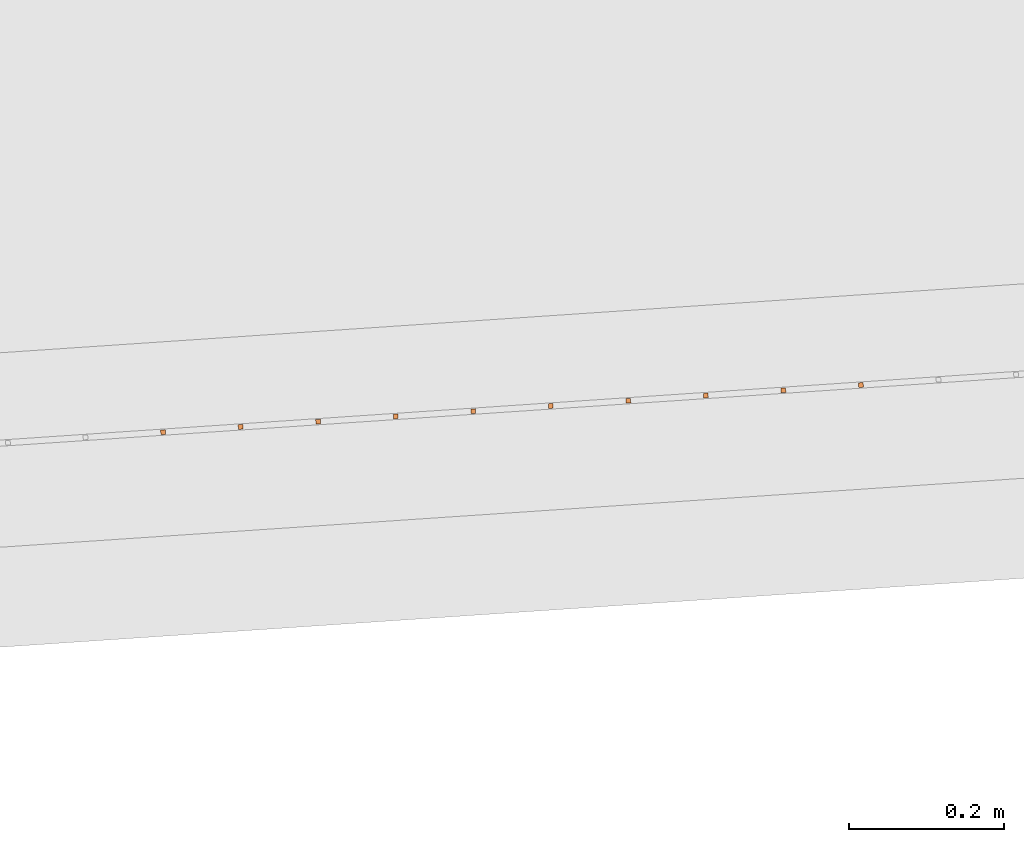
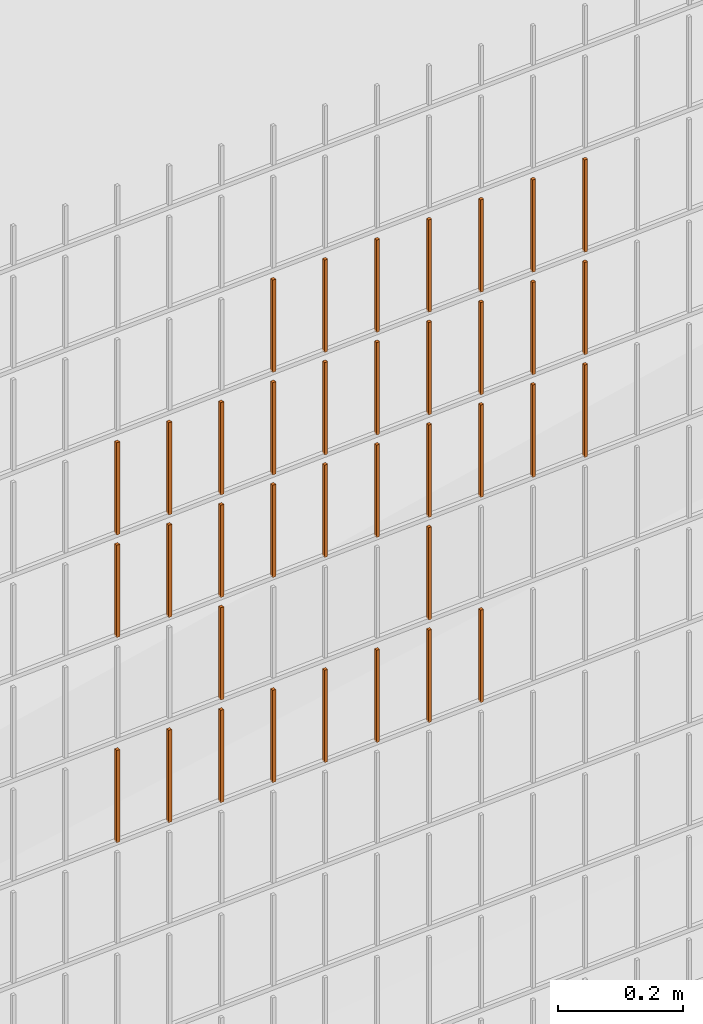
# One storey, part 92 of 1809: 37 proxies, 1 element without a shape of its own.
"""IFC2X3 building model written with IfcOpenShell, lengths in millimetres."""

from ifc_helpers import new_model, entity, si_unit, converted_unit, derived_unit, money_unit, direction, frame, origin_with_axes, place, context, subcontext, project, spatial, faceted_brep, source, transform, mapped, material, type_object, element, aggregate, save


model = new_model("IFC2X3")

# Units and contexts
model_context = context("Model", 3, precision=0.01, world=origin_with_axes(), true_north=direction((0.0, 1.0)))
body_context = subcontext(model_context, "Body", "Model", "MODEL_VIEW")
ifc_project = project(units=[si_unit("LENGTHUNIT", "METRE", prefix="MILLI"), si_unit("AREAUNIT", "SQUARE_METRE"), si_unit("VOLUMEUNIT", "CUBIC_METRE"), converted_unit("PLANEANGLEUNIT", "DEGREE", entity("IfcPlaneAngleMeasure", 0.0174532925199), si_unit("PLANEANGLEUNIT", "RADIAN"), dimensions=[0, 0, 0, 0, 0, 0, 0]), si_unit("SOLIDANGLEUNIT", "STERADIAN"), money_unit("EUR"), converted_unit("TIMEUNIT", "Year", entity("IfcTimeMeasure", 31556926.0), si_unit("TIMEUNIT", "SECOND"), dimensions=[0, 0, 1, 0, 0, 0, 0]), si_unit("MASSUNIT", "GRAM", prefix="KILO"), si_unit("THERMODYNAMICTEMPERATUREUNIT", "DEGREE_CELSIUS"), si_unit("LUMINOUSINTENSITYUNIT", "LUMEN"), si_unit("ENERGYUNIT", "JOULE", prefix="MEGA"), derived_unit("THERMALCONDUCTANCEUNIT", [(si_unit("POWERUNIT", "WATT"), 1), (si_unit("LENGTHUNIT", "METRE"), -1), (si_unit("THERMODYNAMICTEMPERATUREUNIT", "KELVIN"), -1)]), derived_unit("SPECIFICHEATCAPACITYUNIT", [(si_unit("ENERGYUNIT", "JOULE"), 1), (si_unit("MASSUNIT", "GRAM", prefix="KILO"), -1), (si_unit("THERMODYNAMICTEMPERATUREUNIT", "KELVIN"), -1)]), derived_unit("MASSDENSITYUNIT", [(si_unit("MASSUNIT", "GRAM", prefix="KILO"), 1), (si_unit("VOLUMEUNIT", "CUBIC_METRE"), -1)])], contexts=[model_context])

# Site, building, storey
site_placement = place(None, origin_with_axes())
site = spatial("IfcSite", under=ifc_project, at=site_placement, Name="Politse- ja Piirivalveameti ning Päästeameti ühishoone", CompositionType="ELEMENT")
building_placement = place(site_placement, origin_with_axes())
building = spatial("IfcBuilding", under=site, at=building_placement, Name="Politse- ja Piirivalveameti ning Päästeameti ühishoone", CompositionType="ELEMENT")
storey_placement = place(building_placement, origin_with_axes())
storey = spatial("IfcBuildingStorey", under=building, at=storey_placement, Name="Esimene korrus", CompositionType="ELEMENT", Elevation=0.0)

# Proxies
building_element_proxy_type_1 = type_object("IfcBuildingElementProxyType", Name="Railing Type", PredefinedType="NOTDEFINED")
proxy_1_placement = place(storey_placement, frame((89252.001212, -29183.4766571, 203.661247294), z_axis=(0.0, 0.0, 1.0), x_axis=(1.0, 0.0, 0.0)))
proxy_1 = element("IfcBuildingElementProxy", 1, at=proxy_1_placement, inside=storey, type_object=building_element_proxy_type_1, Name="PIIRDEAED")
ifc_material = material(Name="ET-03_Raud")
building_element_proxy_type_2 = type_object("IfcBuildingElementProxyType", Name="IfcBuildingElementProxy", PredefinedType="NOTDEFINED")
shared_shape_1 = source(origin_with_axes(), body_context, "Body", "Brep", [
    faceted_brep([(3.0, 3.0, -0.000752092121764), (-3.0, 3.0, -0.000752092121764), (-3.0, 3.0, 179.99926046), (3.0, 3.0, 179.99926046), (3.0, -3.0, 0.000752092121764), (-3.0, -3.0, 0.000752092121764), (-3.0, -3.0, 180.000764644), (3.0, -3.0, 180.000764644)], [[[0, 1, 2, 3]], [[0, 4, 5, 1]], [[1, 5, 6, 2]], [[3, 2, 6, 7]], [[4, 0, 3, 7]], [[5, 4, 7, 6]]]),
])
proxy_2_placement = place(proxy_1_placement, frame((-98502.2358292, -23951.2290578, 802.4838641), z_axis=(0.0, 0.0, 1.0), x_axis=(1.0, 0.0, 0.0)))
proxy_2 = element("IfcBuildingElementProxy", 2, at=proxy_2_placement, type_object=building_element_proxy_type_2, material=ifc_material, Name="BALUSTER - 001", context=body_context, shape_type="MappedRepresentation", body=[
    mapped(shared_shape_1, transform((0.0, 0.0, 0.0), x_axis=(-0.0673926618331, 0.997726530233, 0.0), y_axis=(-0.997726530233, -0.0673926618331, 0.0), z_axis=(0.0, 0.0, 1.0))),
])
proxy_3_placement = place(proxy_1_placement, frame((-98801.5537883, -23971.4468564, 802.408654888), z_axis=(0.0, 0.0, 1.0), x_axis=(1.0, 0.0, 0.0)))
proxy_3 = element("IfcBuildingElementProxy", 3, at=proxy_3_placement, type_object=building_element_proxy_type_2, material=ifc_material, Name="BALUSTER - 001", context=body_context, shape_type="MappedRepresentation", body=[
    mapped(shared_shape_1, transform((0.0, 0.0, 0.0), x_axis=(-0.0673926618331, 0.997726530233, 0.0), y_axis=(-0.997726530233, -0.0673926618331, 0.0), z_axis=(0.0, 0.0, 1.0))),
])
proxy_4_placement = place(proxy_1_placement, frame((-98202.9178701, -23931.0112593, 1202.55907331), z_axis=(0.0, 0.0, 1.0), x_axis=(1.0, 0.0, 0.0)))
proxy_4 = element("IfcBuildingElementProxy", 4, at=proxy_4_placement, type_object=building_element_proxy_type_2, material=ifc_material, Name="BALUSTER - 001", context=body_context, shape_type="MappedRepresentation", body=[
    mapped(shared_shape_1, transform((0.0, 0.0, 0.0), x_axis=(-0.0673926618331, 0.997726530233, 0.0), y_axis=(-0.997726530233, -0.0673926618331, 0.0), z_axis=(0.0, 0.0, 1.0))),
])
proxy_5_placement = place(proxy_1_placement, frame((-98502.2358292, -23951.2290578, 1202.4838641), z_axis=(0.0, 0.0, 1.0), x_axis=(1.0, 0.0, 0.0)))
proxy_5 = element("IfcBuildingElementProxy", 5, at=proxy_5_placement, type_object=building_element_proxy_type_2, material=ifc_material, Name="BALUSTER - 001", context=body_context, shape_type="MappedRepresentation", body=[
    mapped(shared_shape_1, transform((0.0, 0.0, 0.0), x_axis=(-0.0673926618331, 0.997726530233, 0.0), y_axis=(-0.997726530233, -0.0673926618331, 0.0), z_axis=(0.0, 0.0, 1.0))),
])
shared_shape_2 = source(origin_with_axes(), body_context, "Body", "Brep", [
    faceted_brep([(3.0, 3.0, -0.000752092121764), (-3.0, 3.0, -0.000752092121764), (-3.0, 3.0, 179.99926046), (3.0, 3.0, 179.99926046), (3.0, -3.0, 0.000752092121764), (-3.0, -3.0, 0.000752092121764), (-3.0, -3.0, 180.000764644), (3.0, -3.0, 180.000764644)], [[[0, 1, 2, 3]], [[0, 4, 5, 1]], [[1, 5, 6, 2]], [[3, 2, 6, 7]], [[4, 0, 3, 7]], [[5, 4, 7, 6]]]),
])
proxy_6_placement = place(proxy_1_placement, frame((-98202.9178701, -23931.0112593, 1402.55907331), z_axis=(0.0, 0.0, 1.0), x_axis=(1.0, 0.0, 0.0)))
proxy_6 = element("IfcBuildingElementProxy", 6, at=proxy_6_placement, type_object=building_element_proxy_type_2, material=ifc_material, Name="BALUSTER - 001", context=body_context, shape_type="MappedRepresentation", body=[
    mapped(shared_shape_2, transform((0.0, 0.0, 0.0), x_axis=(-0.0673926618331, 0.997726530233, 0.0), y_axis=(-0.997726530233, -0.0673926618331, 0.0), z_axis=(0.0, 0.0, 1.0))),
])
proxy_7_placement = place(proxy_1_placement, frame((-98502.2358292, -23951.2290578, 1402.4838641), z_axis=(0.0, 0.0, 1.0), x_axis=(1.0, 0.0, 0.0)))
proxy_7 = element("IfcBuildingElementProxy", 7, at=proxy_7_placement, type_object=building_element_proxy_type_2, material=ifc_material, Name="BALUSTER - 001", context=body_context, shape_type="MappedRepresentation", body=[
    mapped(shared_shape_2, transform((0.0, 0.0, 0.0), x_axis=(-0.0673926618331, 0.997726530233, 0.0), y_axis=(-0.997726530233, -0.0673926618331, 0.0), z_axis=(0.0, 0.0, 1.0))),
])
proxy_8_placement = place(proxy_1_placement, frame((-98202.9178701, -23931.0112593, 1602.55907331), z_axis=(0.0, 0.0, 1.0), x_axis=(1.0, 0.0, 0.0)))
proxy_8 = element("IfcBuildingElementProxy", 8, at=proxy_8_placement, type_object=building_element_proxy_type_2, material=ifc_material, Name="BALUSTER - 001", context=body_context, shape_type="MappedRepresentation", body=[
    mapped(shared_shape_2, transform((0.0, 0.0, 0.0), x_axis=(-0.0673926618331, 0.997726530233, 0.0), y_axis=(-0.997726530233, -0.0673926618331, 0.0), z_axis=(0.0, 0.0, 1.0))),
])
proxy_9_placement = place(proxy_1_placement, frame((-98502.2358292, -23951.2290578, 1602.4838641), z_axis=(0.0, 0.0, 1.0), x_axis=(1.0, 0.0, 0.0)))
proxy_9 = element("IfcBuildingElementProxy", 9, at=proxy_9_placement, type_object=building_element_proxy_type_2, material=ifc_material, Name="BALUSTER - 001", context=body_context, shape_type="MappedRepresentation", body=[
    mapped(shared_shape_2, transform((0.0, 0.0, 0.0), x_axis=(-0.0673926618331, 0.997726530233, 0.0), y_axis=(-0.997726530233, -0.0673926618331, 0.0), z_axis=(0.0, 0.0, 1.0))),
])
shared_shape_3 = source(origin_with_axes(), body_context, "Body", "Brep", [
    faceted_brep([(3.0, 3.0, -0.000752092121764), (-3.0, 3.0, -0.000752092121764), (-3.0, 3.0, 179.99926046), (3.0, 3.0, 179.99926046), (3.0, -3.0, 0.000752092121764), (-3.0, -3.0, 0.000752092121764), (-3.0, -3.0, 180.000764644), (3.0, -3.0, 180.000764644)], [[[0, 1, 2, 3]], [[0, 4, 5, 1]], [[1, 5, 6, 2]], [[3, 2, 6, 7]], [[4, 0, 3, 7]], [[5, 4, 7, 6]]]),
])
proxy_10_placement = place(proxy_1_placement, frame((-99001.0990943, -23984.9253888, 1202.35851541), z_axis=(0.0, 0.0, 1.0), x_axis=(1.0, 0.0, 0.0)))
proxy_10 = element("IfcBuildingElementProxy", 10, at=proxy_10_placement, type_object=building_element_proxy_type_2, material=ifc_material, Name="BALUSTER - 001", context=body_context, shape_type="MappedRepresentation", body=[
    mapped(shared_shape_3, transform((0.0, 0.0, 0.0), x_axis=(-0.0673926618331, 0.997726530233, 0.0), y_axis=(-0.997726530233, -0.0673926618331, 0.0), z_axis=(0.0, 0.0, 1.0))),
])
shared_shape_4 = source(origin_with_axes(), body_context, "Body", "Brep", [
    faceted_brep([(3.0, 3.0, -0.000752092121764), (-3.0, 3.0, -0.000752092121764), (-3.0, 3.0, 179.99926046), (3.0, 3.0, 179.99926046), (3.0, -3.0, 0.000752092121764), (-3.0, -3.0, 0.000752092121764), (-3.0, -3.0, 180.000764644), (3.0, -3.0, 180.000764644)], [[[0, 1, 2, 3]], [[0, 4, 5, 1]], [[1, 5, 6, 2]], [[3, 2, 6, 7]], [[4, 0, 3, 7]], [[5, 4, 7, 6]]]),
])
proxy_11_placement = place(proxy_1_placement, frame((-99001.0990943, -23984.9253888, 802.358515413), z_axis=(0.0, 0.0, 1.0), x_axis=(1.0, 0.0, 0.0)))
proxy_11 = element("IfcBuildingElementProxy", 11, at=proxy_11_placement, type_object=building_element_proxy_type_2, material=ifc_material, Name="BALUSTER - 001", context=body_context, shape_type="MappedRepresentation", body=[
    mapped(shared_shape_4, transform((0.0, 0.0, 0.0), x_axis=(-0.0673926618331, 0.997726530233, 0.0), y_axis=(-0.997726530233, -0.0673926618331, 0.0), z_axis=(0.0, 0.0, 1.0))),
])
proxy_12_placement = place(proxy_1_placement, frame((-99100.8717473, -23991.6646549, 1202.33344568), z_axis=(0.0, 0.0, 1.0), x_axis=(1.0, 0.0, 0.0)))
proxy_12 = element("IfcBuildingElementProxy", 12, at=proxy_12_placement, type_object=building_element_proxy_type_2, material=ifc_material, Name="BALUSTER - 001", context=body_context, shape_type="MappedRepresentation", body=[
    mapped(shared_shape_4, transform((0.0, 0.0, 0.0), x_axis=(-0.0673926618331, 0.997726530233, 0.0), y_axis=(-0.997726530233, -0.0673926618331, 0.0), z_axis=(0.0, 0.0, 1.0))),
])
shared_shape_5 = source(origin_with_axes(), body_context, "Body", "Brep", [
    faceted_brep([(3.0, 3.0, -0.000752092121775), (-3.0, 3.0, -0.000752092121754), (-3.0, 3.0, 179.99926046), (3.0, 3.0, 179.99926046), (3.0, -3.0, 0.000752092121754), (-3.0, -3.0, 0.000752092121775), (-3.0, -3.0, 180.000764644), (3.0, -3.0, 180.000764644)], [[[0, 1, 2, 3]], [[0, 4, 5, 1]], [[1, 5, 6, 2]], [[3, 2, 6, 7]], [[4, 0, 3, 7]], [[5, 4, 7, 6]]]),
])
proxy_13_placement = place(proxy_1_placement, frame((-98602.0084822, -23957.968324, 802.458794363), z_axis=(0.0, 0.0, 1.0), x_axis=(1.0, 0.0, 0.0)))
proxy_13 = element("IfcBuildingElementProxy", 13, at=proxy_13_placement, type_object=building_element_proxy_type_2, material=ifc_material, Name="BALUSTER - 001", context=body_context, shape_type="MappedRepresentation", body=[
    mapped(shared_shape_5, transform((0.0, 0.0, 0.0), x_axis=(-0.0673926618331, 0.997726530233, 0.0), y_axis=(-0.997726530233, -0.0673926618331, 0.0), z_axis=(0.0, 0.0, 1.0))),
])
shared_shape_6 = source(origin_with_axes(), body_context, "Body", "Brep", [
    faceted_brep([(3.0, 3.0, -0.000752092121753), (-3.0, 3.0, -0.000752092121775), (-3.0, 3.0, 179.99926046), (3.0, 3.0, 179.99926046), (3.0, -3.0, 0.000752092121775), (-3.0, -3.0, 0.000752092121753), (-3.0, -3.0, 180.000764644), (3.0, -3.0, 180.000764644)], [[[0, 1, 2, 3]], [[0, 4, 5, 1]], [[1, 5, 6, 2]], [[3, 2, 6, 7]], [[4, 0, 3, 7]], [[5, 4, 7, 6]]]),
])
proxy_14_placement = place(proxy_1_placement, frame((-98801.5537883, -23971.4468564, 1202.40865489), z_axis=(0.0, 0.0, 1.0), x_axis=(1.0, 0.0, 0.0)))
proxy_14 = element("IfcBuildingElementProxy", 14, at=proxy_14_placement, type_object=building_element_proxy_type_2, material=ifc_material, Name="BALUSTER - 001", context=body_context, shape_type="MappedRepresentation", body=[
    mapped(shared_shape_6, transform((0.0, 0.0, 0.0), x_axis=(-0.0673926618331, 0.997726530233, 0.0), y_axis=(-0.997726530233, -0.0673926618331, 0.0), z_axis=(0.0, 0.0, 1.0))),
])
shared_shape_7 = source(origin_with_axes(), body_context, "Body", "Brep", [
    faceted_brep([(3.0, 3.0, -0.000752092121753), (-3.0, 3.0, -0.000752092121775), (-3.0, 3.0, 179.99926046), (3.0, 3.0, 179.99926046), (3.0, -3.0, 0.000752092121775), (-3.0, -3.0, 0.000752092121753), (-3.0, -3.0, 180.000764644), (3.0, -3.0, 180.000764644)], [[[0, 1, 2, 3]], [[0, 4, 5, 1]], [[1, 5, 6, 2]], [[3, 2, 6, 7]], [[4, 0, 3, 7]], [[5, 4, 7, 6]]]),
])
proxy_15_placement = place(proxy_1_placement, frame((-99100.8717473, -23991.6646549, 802.333445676), z_axis=(0.0, 0.0, 1.0), x_axis=(1.0, 0.0, 0.0)))
proxy_15 = element("IfcBuildingElementProxy", 15, at=proxy_15_placement, type_object=building_element_proxy_type_2, material=ifc_material, Name="BALUSTER - 001", context=body_context, shape_type="MappedRepresentation", body=[
    mapped(shared_shape_7, transform((0.0, 0.0, 0.0), x_axis=(-0.0673926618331, 0.997726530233, 0.0), y_axis=(-0.997726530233, -0.0673926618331, 0.0), z_axis=(0.0, 0.0, 1.0))),
])
proxy_16_placement = place(proxy_1_placement, frame((-98701.7811352, -23964.7075902, 1202.43372463), z_axis=(0.0, 0.0, 1.0), x_axis=(1.0, 0.0, 0.0)))
proxy_16 = element("IfcBuildingElementProxy", 16, at=proxy_16_placement, type_object=building_element_proxy_type_2, material=ifc_material, Name="BALUSTER - 001", context=body_context, shape_type="MappedRepresentation", body=[
    mapped(shared_shape_7, transform((0.0, 0.0, 0.0), x_axis=(-0.0673926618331, 0.997726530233, 0.0), y_axis=(-0.997726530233, -0.0673926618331, 0.0), z_axis=(0.0, 0.0, 1.0))),
])
shared_shape_8 = source(origin_with_axes(), body_context, "Body", "Brep", [
    faceted_brep([(3.0, 3.0, -0.000752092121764), (-3.0, 3.0, -0.000752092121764), (-3.0, 3.0, 179.99926046), (3.0, 3.0, 179.99926046), (3.0, -3.0, 0.000752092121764), (-3.0, -3.0, 0.000752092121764), (-3.0, -3.0, 180.000764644), (3.0, -3.0, 180.000764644)], [[[0, 1, 2, 3]], [[0, 4, 5, 1]], [[1, 5, 6, 2]], [[3, 2, 6, 7]], [[4, 0, 3, 7]], [[5, 4, 7, 6]]]),
])
proxy_17_placement = place(proxy_1_placement, frame((-99100.8717473, -23991.6646549, 1402.33344568), z_axis=(0.0, 0.0, 1.0), x_axis=(1.0, 0.0, 0.0)))
proxy_17 = element("IfcBuildingElementProxy", 17, at=proxy_17_placement, type_object=building_element_proxy_type_2, material=ifc_material, Name="BALUSTER - 001", context=body_context, shape_type="MappedRepresentation", body=[
    mapped(shared_shape_8, transform((0.0, 0.0, 0.0), x_axis=(-0.0673926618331, 0.997726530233, 0.0), y_axis=(-0.997726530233, -0.0673926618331, 0.0), z_axis=(0.0, 0.0, 1.0))),
])
shared_shape_9 = source(origin_with_axes(), body_context, "Body", "Brep", [
    faceted_brep([(3.0, 3.0, -0.000752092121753), (-3.0, 3.0, -0.000752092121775), (-3.0, 3.0, 179.99926046), (3.0, 3.0, 179.99926046), (3.0, -3.0, 0.000752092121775), (-3.0, -3.0, 0.000752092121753), (-3.0, -3.0, 180.000764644), (3.0, -3.0, 180.000764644)], [[[0, 1, 2, 3]], [[0, 4, 5, 1]], [[1, 5, 6, 2]], [[3, 2, 6, 7]], [[4, 0, 3, 7]], [[5, 4, 7, 6]]]),
])
proxy_18_placement = place(proxy_1_placement, frame((-98801.5537883, -23971.4468564, 1402.40865489), z_axis=(0.0, 0.0, 1.0), x_axis=(1.0, 0.0, 0.0)))
proxy_18 = element("IfcBuildingElementProxy", 18, at=proxy_18_placement, type_object=building_element_proxy_type_2, material=ifc_material, Name="BALUSTER - 001", context=body_context, shape_type="MappedRepresentation", body=[
    mapped(shared_shape_9, transform((0.0, 0.0, 0.0), x_axis=(-0.0673926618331, 0.997726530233, 0.0), y_axis=(-0.997726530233, -0.0673926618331, 0.0), z_axis=(0.0, 0.0, 1.0))),
])
proxy_19_placement = place(proxy_1_placement, frame((-98801.5537883, -23971.4468564, 1602.40865489), z_axis=(0.0, 0.0, 1.0), x_axis=(1.0, 0.0, 0.0)))
proxy_19 = element("IfcBuildingElementProxy", 19, at=proxy_19_placement, type_object=building_element_proxy_type_2, material=ifc_material, Name="BALUSTER - 001", context=body_context, shape_type="MappedRepresentation", body=[
    mapped(shared_shape_9, transform((0.0, 0.0, 0.0), x_axis=(-0.0673926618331, 0.997726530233, 0.0), y_axis=(-0.997726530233, -0.0673926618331, 0.0), z_axis=(0.0, 0.0, 1.0))),
])
shared_shape_10 = source(origin_with_axes(), body_context, "Body", "Brep", [
    faceted_brep([(3.0, 3.0, -0.000752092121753), (-3.0, 3.0, -0.000752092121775), (-3.0, 3.0, 179.99926046), (3.0, 3.0, 179.99926046), (3.0, -3.0, 0.000752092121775), (-3.0, -3.0, 0.000752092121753), (-3.0, -3.0, 180.000764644), (3.0, -3.0, 180.000764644)], [[[0, 1, 2, 3]], [[0, 4, 5, 1]], [[1, 5, 6, 2]], [[3, 2, 6, 7]], [[4, 0, 3, 7]], [[5, 4, 7, 6]]]),
])
proxy_20_placement = place(proxy_1_placement, frame((-98701.7811352, -23964.7075902, 1402.43372463), z_axis=(0.0, 0.0, 1.0), x_axis=(1.0, 0.0, 0.0)))
proxy_20 = element("IfcBuildingElementProxy", 20, at=proxy_20_placement, type_object=building_element_proxy_type_2, material=ifc_material, Name="BALUSTER - 001", context=body_context, shape_type="MappedRepresentation", body=[
    mapped(shared_shape_10, transform((0.0, 0.0, 0.0), x_axis=(-0.0673926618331, 0.997726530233, 0.0), y_axis=(-0.997726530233, -0.0673926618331, 0.0), z_axis=(0.0, 0.0, 1.0))),
])
proxy_21_placement = place(proxy_1_placement, frame((-98701.7811352, -23964.7075902, 1602.43372463), z_axis=(0.0, 0.0, 1.0), x_axis=(1.0, 0.0, 0.0)))
proxy_21 = element("IfcBuildingElementProxy", 21, at=proxy_21_placement, type_object=building_element_proxy_type_2, material=ifc_material, Name="BALUSTER - 001", context=body_context, shape_type="MappedRepresentation", body=[
    mapped(shared_shape_10, transform((0.0, 0.0, 0.0), x_axis=(-0.0673926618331, 0.997726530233, 0.0), y_axis=(-0.997726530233, -0.0673926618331, 0.0), z_axis=(0.0, 0.0, 1.0))),
])
shared_shape_11 = source(origin_with_axes(), body_context, "Body", "Brep", [
    faceted_brep([(3.0, 3.0, -0.000752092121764), (-3.0, 3.0, -0.000752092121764), (-3.0, 3.0, 179.99926046), (3.0, 3.0, 179.99926046), (3.0, -3.0, 0.000752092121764), (-3.0, -3.0, 0.000752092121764), (-3.0, -3.0, 180.000764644), (3.0, -3.0, 180.000764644)], [[[0, 1, 2, 3]], [[0, 4, 5, 1]], [[1, 5, 6, 2]], [[3, 2, 6, 7]], [[4, 0, 3, 7]], [[5, 4, 7, 6]]]),
])
proxy_22_placement = place(proxy_1_placement, frame((-98402.4631762, -23944.4897917, 1202.50893384), z_axis=(0.0, 0.0, 1.0), x_axis=(1.0, 0.0, 0.0)))
proxy_22 = element("IfcBuildingElementProxy", 22, at=proxy_22_placement, type_object=building_element_proxy_type_2, material=ifc_material, Name="BALUSTER - 001", context=body_context, shape_type="MappedRepresentation", body=[
    mapped(shared_shape_11, transform((0.0, 0.0, 0.0), x_axis=(-0.0673926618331, 0.997726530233, 0.0), y_axis=(-0.997726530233, -0.0673926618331, 0.0), z_axis=(0.0, 0.0, 1.0))),
])
shared_shape_12 = source(origin_with_axes(), body_context, "Body", "Brep", [
    faceted_brep([(3.0, 3.0, -0.000752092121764), (-3.0, 3.0, -0.000752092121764), (-3.0, 3.0, 179.99926046), (3.0, 3.0, 179.99926046), (3.0, -3.0, 0.000752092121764), (-3.0, -3.0, 0.000752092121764), (-3.0, -3.0, 180.000764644), (3.0, -3.0, 180.000764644)], [[[0, 1, 2, 3]], [[0, 4, 5, 1]], [[1, 5, 6, 2]], [[3, 2, 6, 7]], [[4, 0, 3, 7]], [[5, 4, 7, 6]]]),
])
proxy_23_placement = place(proxy_1_placement, frame((-98901.3264413, -23978.1861226, 802.383585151), z_axis=(0.0, 0.0, 1.0), x_axis=(1.0, 0.0, 0.0)))
proxy_23 = element("IfcBuildingElementProxy", 23, at=proxy_23_placement, type_object=building_element_proxy_type_2, material=ifc_material, Name="BALUSTER - 001", context=body_context, shape_type="MappedRepresentation", body=[
    mapped(shared_shape_12, transform((0.0, 0.0, 0.0), x_axis=(-0.0673926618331, 0.997726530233, 0.0), y_axis=(-0.997726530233, -0.0673926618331, 0.0), z_axis=(0.0, 0.0, 1.0))),
])
proxy_24_placement = place(proxy_1_placement, frame((-98901.3264413, -23978.1861226, 1202.38358515), z_axis=(0.0, 0.0, 1.0), x_axis=(1.0, 0.0, 0.0)))
proxy_24 = element("IfcBuildingElementProxy", 24, at=proxy_24_placement, type_object=building_element_proxy_type_2, material=ifc_material, Name="BALUSTER - 001", context=body_context, shape_type="MappedRepresentation", body=[
    mapped(shared_shape_12, transform((0.0, 0.0, 0.0), x_axis=(-0.0673926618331, 0.997726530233, 0.0), y_axis=(-0.997726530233, -0.0673926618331, 0.0), z_axis=(0.0, 0.0, 1.0))),
])
shared_shape_13 = source(origin_with_axes(), body_context, "Body", "Brep", [
    faceted_brep([(3.0, 3.0, -0.000752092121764), (-3.0, 3.0, -0.000752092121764), (-3.0, 3.0, 179.99926046), (3.0, 3.0, 179.99926046), (3.0, -3.0, 0.000752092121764), (-3.0, -3.0, 0.000752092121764), (-3.0, -3.0, 180.000764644), (3.0, -3.0, 180.000764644)], [[[0, 1, 2, 3]], [[0, 4, 5, 1]], [[1, 5, 6, 2]], [[3, 2, 6, 7]], [[4, 0, 3, 7]], [[5, 4, 7, 6]]]),
])
proxy_25_placement = place(proxy_1_placement, frame((-98901.3264413, -23978.1861226, 1402.38358515), z_axis=(0.0, 0.0, 1.0), x_axis=(1.0, 0.0, 0.0)))
proxy_25 = element("IfcBuildingElementProxy", 25, at=proxy_25_placement, type_object=building_element_proxy_type_2, material=ifc_material, Name="BALUSTER - 001", context=body_context, shape_type="MappedRepresentation", body=[
    mapped(shared_shape_13, transform((0.0, 0.0, 0.0), x_axis=(-0.0673926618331, 0.997726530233, 0.0), y_axis=(-0.997726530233, -0.0673926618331, 0.0), z_axis=(0.0, 0.0, 1.0))),
])
shared_shape_14 = source(origin_with_axes(), body_context, "Body", "Brep", [
    faceted_brep([(3.0, 3.0, -0.000752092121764), (-3.0, 3.0, -0.000752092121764), (-3.0, 3.0, 179.99926046), (3.0, 3.0, 179.99926046), (3.0, -3.0, 0.000752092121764), (-3.0, -3.0, 0.000752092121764), (-3.0, -3.0, 180.000764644), (3.0, -3.0, 180.000764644)], [[[0, 1, 2, 3]], [[0, 4, 5, 1]], [[1, 5, 6, 2]], [[3, 2, 6, 7]], [[4, 0, 3, 7]], [[5, 4, 7, 6]]]),
])
proxy_26_placement = place(proxy_1_placement, frame((-99001.0990943, -23984.9253888, 1402.35851541), z_axis=(0.0, 0.0, 1.0), x_axis=(1.0, 0.0, 0.0)))
proxy_26 = element("IfcBuildingElementProxy", 26, at=proxy_26_placement, type_object=building_element_proxy_type_2, material=ifc_material, Name="BALUSTER - 001", context=body_context, shape_type="MappedRepresentation", body=[
    mapped(shared_shape_14, transform((0.0, 0.0, 0.0), x_axis=(-0.0673926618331, 0.997726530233, 0.0), y_axis=(-0.997726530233, -0.0673926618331, 0.0), z_axis=(0.0, 0.0, 1.0))),
])
shared_shape_15 = source(origin_with_axes(), body_context, "Body", "Brep", [
    faceted_brep([(3.0, 3.0, -0.000752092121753), (-3.0, 3.0, -0.000752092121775), (-3.0, 3.0, 179.99926046), (3.0, 3.0, 179.99926046), (3.0, -3.0, 0.000752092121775), (-3.0, -3.0, 0.000752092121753), (-3.0, -3.0, 180.000764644), (3.0, -3.0, 180.000764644)], [[[0, 1, 2, 3]], [[0, 4, 5, 1]], [[1, 5, 6, 2]], [[3, 2, 6, 7]], [[4, 0, 3, 7]], [[5, 4, 7, 6]]]),
])
proxy_27_placement = place(proxy_1_placement, frame((-98602.0084822, -23957.968324, 1202.45879436), z_axis=(0.0, 0.0, 1.0), x_axis=(1.0, 0.0, 0.0)))
proxy_27 = element("IfcBuildingElementProxy", 27, at=proxy_27_placement, type_object=building_element_proxy_type_2, material=ifc_material, Name="BALUSTER - 001", context=body_context, shape_type="MappedRepresentation", body=[
    mapped(shared_shape_15, transform((0.0, 0.0, 0.0), x_axis=(-0.0673926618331, 0.997726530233, 0.0), y_axis=(-0.997726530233, -0.0673926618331, 0.0), z_axis=(0.0, 0.0, 1.0))),
])
shared_shape_16 = source(origin_with_axes(), body_context, "Body", "Brep", [
    faceted_brep([(3.0, 3.0, -0.000752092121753), (-3.0, 3.0, -0.000752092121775), (-3.0, 3.0, 179.99926046), (3.0, 3.0, 179.99926046), (3.0, -3.0, 0.000752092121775), (-3.0, -3.0, 0.000752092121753), (-3.0, -3.0, 180.000764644), (3.0, -3.0, 180.000764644)], [[[0, 1, 2, 3]], [[0, 4, 5, 1]], [[1, 5, 6, 2]], [[3, 2, 6, 7]], [[4, 0, 3, 7]], [[5, 4, 7, 6]]]),
])
proxy_28_placement = place(proxy_1_placement, frame((-98602.0084822, -23957.968324, 1402.45879436), z_axis=(0.0, 0.0, 1.0), x_axis=(1.0, 0.0, 0.0)))
proxy_28 = element("IfcBuildingElementProxy", 28, at=proxy_28_placement, type_object=building_element_proxy_type_2, material=ifc_material, Name="BALUSTER - 001", context=body_context, shape_type="MappedRepresentation", body=[
    mapped(shared_shape_16, transform((0.0, 0.0, 0.0), x_axis=(-0.0673926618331, 0.997726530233, 0.0), y_axis=(-0.997726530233, -0.0673926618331, 0.0), z_axis=(0.0, 0.0, 1.0))),
])
proxy_29_placement = place(proxy_1_placement, frame((-98602.0084822, -23957.968324, 1602.45879436), z_axis=(0.0, 0.0, 1.0), x_axis=(1.0, 0.0, 0.0)))
proxy_29 = element("IfcBuildingElementProxy", 29, at=proxy_29_placement, type_object=building_element_proxy_type_2, material=ifc_material, Name="BALUSTER - 001", context=body_context, shape_type="MappedRepresentation", body=[
    mapped(shared_shape_16, transform((0.0, 0.0, 0.0), x_axis=(-0.0673926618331, 0.997726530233, 0.0), y_axis=(-0.997726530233, -0.0673926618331, 0.0), z_axis=(0.0, 0.0, 1.0))),
])
shared_shape_17 = source(origin_with_axes(), body_context, "Body", "Brep", [
    faceted_brep([(3.0, 3.0, -0.000752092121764), (-3.0, 3.0, -0.000752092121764), (-3.0, 3.0, 179.99926046), (3.0, 3.0, 179.99926046), (3.0, -3.0, 0.000752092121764), (-3.0, -3.0, 0.000752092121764), (-3.0, -3.0, 180.000764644), (3.0, -3.0, 180.000764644)], [[[0, 1, 2, 3]], [[0, 4, 5, 1]], [[1, 5, 6, 2]], [[3, 2, 6, 7]], [[4, 0, 3, 7]], [[5, 4, 7, 6]]]),
])
proxy_30_placement = place(proxy_1_placement, frame((-98402.4631762, -23944.4897917, 1402.50893384), z_axis=(0.0, 0.0, 1.0), x_axis=(1.0, 0.0, 0.0)))
proxy_30 = element("IfcBuildingElementProxy", 30, at=proxy_30_placement, type_object=building_element_proxy_type_2, material=ifc_material, Name="BALUSTER - 001", context=body_context, shape_type="MappedRepresentation", body=[
    mapped(shared_shape_17, transform((0.0, 0.0, 0.0), x_axis=(-0.0673926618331, 0.997726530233, 0.0), y_axis=(-0.997726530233, -0.0673926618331, 0.0), z_axis=(0.0, 0.0, 1.0))),
])
proxy_31_placement = place(proxy_1_placement, frame((-98402.4631762, -23944.4897917, 1602.50893384), z_axis=(0.0, 0.0, 1.0), x_axis=(1.0, 0.0, 0.0)))
proxy_31 = element("IfcBuildingElementProxy", 31, at=proxy_31_placement, type_object=building_element_proxy_type_2, material=ifc_material, Name="BALUSTER - 001", context=body_context, shape_type="MappedRepresentation", body=[
    mapped(shared_shape_17, transform((0.0, 0.0, 0.0), x_axis=(-0.0673926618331, 0.997726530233, 0.0), y_axis=(-0.997726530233, -0.0673926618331, 0.0), z_axis=(0.0, 0.0, 1.0))),
])
shared_shape_18 = source(origin_with_axes(), body_context, "Body", "Brep", [
    faceted_brep([(3.0, 3.0, -0.000752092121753), (-3.0, 3.0, -0.000752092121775), (-3.0, 3.0, 179.99926046), (3.0, 3.0, 179.99926046), (3.0, -3.0, 0.000752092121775), (-3.0, -3.0, 0.000752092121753), (-3.0, -3.0, 180.000764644), (3.0, -3.0, 180.000764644)], [[[0, 1, 2, 3]], [[0, 4, 5, 1]], [[1, 5, 6, 2]], [[3, 2, 6, 7]], [[4, 0, 3, 7]], [[5, 4, 7, 6]]]),
])
proxy_32_placement = place(proxy_1_placement, frame((-98302.6905231, -23937.7505255, 1202.53400358), z_axis=(0.0, 0.0, 1.0), x_axis=(1.0, 0.0, 0.0)))
proxy_32 = element("IfcBuildingElementProxy", 32, at=proxy_32_placement, type_object=building_element_proxy_type_2, material=ifc_material, Name="BALUSTER - 001", context=body_context, shape_type="MappedRepresentation", body=[
    mapped(shared_shape_18, transform((0.0, 0.0, 0.0), x_axis=(-0.0673926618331, 0.997726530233, 0.0), y_axis=(-0.997726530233, -0.0673926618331, 0.0), z_axis=(0.0, 0.0, 1.0))),
])
shared_shape_19 = source(origin_with_axes(), body_context, "Body", "Brep", [
    faceted_brep([(3.0, 3.0, -0.000752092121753), (-3.0, 3.0, -0.000752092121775), (-3.0, 3.0, 179.99926046), (3.0, 3.0, 179.99926046), (3.0, -3.0, 0.000752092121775), (-3.0, -3.0, 0.000752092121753), (-3.0, -3.0, 180.000764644), (3.0, -3.0, 180.000764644)], [[[0, 1, 2, 3]], [[0, 4, 5, 1]], [[1, 5, 6, 2]], [[3, 2, 6, 7]], [[4, 0, 3, 7]], [[5, 4, 7, 6]]]),
])
proxy_33_placement = place(proxy_1_placement, frame((-98302.6905231, -23937.7505255, 1402.53400358), z_axis=(0.0, 0.0, 1.0), x_axis=(1.0, 0.0, 0.0)))
proxy_33 = element("IfcBuildingElementProxy", 33, at=proxy_33_placement, type_object=building_element_proxy_type_2, material=ifc_material, Name="BALUSTER - 001", context=body_context, shape_type="MappedRepresentation", body=[
    mapped(shared_shape_19, transform((0.0, 0.0, 0.0), x_axis=(-0.0673926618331, 0.997726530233, 0.0), y_axis=(-0.997726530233, -0.0673926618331, 0.0), z_axis=(0.0, 0.0, 1.0))),
])
proxy_34_placement = place(proxy_1_placement, frame((-98302.6905231, -23937.7505255, 1602.53400358), z_axis=(0.0, 0.0, 1.0), x_axis=(1.0, 0.0, 0.0)))
proxy_34 = element("IfcBuildingElementProxy", 34, at=proxy_34_placement, type_object=building_element_proxy_type_2, material=ifc_material, Name="BALUSTER - 001", context=body_context, shape_type="MappedRepresentation", body=[
    mapped(shared_shape_19, transform((0.0, 0.0, 0.0), x_axis=(-0.0673926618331, 0.997726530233, 0.0), y_axis=(-0.997726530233, -0.0673926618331, 0.0), z_axis=(0.0, 0.0, 1.0))),
])
shared_shape_20 = source(origin_with_axes(), body_context, "Body", "Brep", [
    faceted_brep([(3.0, 3.0, -0.000752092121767), (-3.0, 3.0, -0.000752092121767), (-3.0, 3.0, 179.99926046), (3.0, 3.0, 179.99926046), (3.0, -3.0, 0.000752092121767), (-3.0, -3.0, 0.000752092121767), (-3.0, -3.0, 180.000764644), (3.0, -3.0, 180.000764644)], [[[0, 1, 2, 3]], [[0, 4, 5, 1]], [[1, 5, 6, 2]], [[3, 2, 6, 7]], [[4, 0, 3, 7]], [[5, 4, 7, 6]]]),
])
proxy_35_placement = place(proxy_1_placement, frame((-98402.4631762, -23944.4897917, 802.508933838), z_axis=(0.0, 0.0, 1.0), x_axis=(1.0, 0.0, 0.0)))
proxy_35 = element("IfcBuildingElementProxy", 35, at=proxy_35_placement, type_object=building_element_proxy_type_2, material=ifc_material, Name="BALUSTER - 001", context=body_context, shape_type="MappedRepresentation", body=[
    mapped(shared_shape_20, transform((0.0, 0.0, 0.0), x_axis=(-0.0673926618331, 0.997726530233, 0.0), y_axis=(-0.997726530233, -0.0673926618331, 0.0), z_axis=(0.0, 0.0, 1.0))),
])
shared_shape_21 = source(origin_with_axes(), body_context, "Body", "Brep", [
    faceted_brep([(3.0, 3.0, -0.000752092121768), (-3.0, 3.0, -0.00075209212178), (-3.00000000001, 3.0, 179.99926046), (2.99999999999, 3.0, 179.99926046), (3.0, -3.0, 0.00075209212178), (-3.0, -3.0, 0.000752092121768), (-3.00000000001, -3.0, 180.000764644), (2.99999999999, -3.0, 180.000764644)], [[[0, 1, 2, 3]], [[0, 4, 5, 1]], [[1, 5, 6, 2]], [[3, 2, 6, 7]], [[4, 0, 3, 7]], [[5, 4, 7, 6]]]),
])
proxy_36_placement = place(proxy_1_placement, frame((-98901.3264413, -23978.1861226, 1002.38358515), z_axis=(0.0, 0.0, 1.0), x_axis=(1.0, 0.0, 0.0)))
proxy_36 = element("IfcBuildingElementProxy", 36, at=proxy_36_placement, type_object=building_element_proxy_type_2, material=ifc_material, Name="BALUSTER - 001", context=body_context, shape_type="MappedRepresentation", body=[
    mapped(shared_shape_21, transform((0.0, 0.0, 0.0), x_axis=(-0.0673926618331, 0.997726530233, 0.0), y_axis=(-0.997726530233, -0.0673926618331, 0.0), z_axis=(0.0, 0.0, 1.0))),
])
shared_shape_22 = source(origin_with_axes(), body_context, "Body", "Brep", [
    faceted_brep([(3.0, 3.0, -0.000752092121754), (-3.0, 3.0, -0.000752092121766), (-3.00000000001, 3.00000000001, 179.99926046), (2.99999999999, 3.00000000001, 179.99926046), (3.0, -3.0, 0.000752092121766), (-3.0, -3.0, 0.000752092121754), (-3.00000000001, -2.99999999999, 180.000764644), (2.99999999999, -2.99999999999, 180.000764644)], [[[0, 1, 2, 3]], [[0, 4, 5, 1]], [[1, 5, 6, 2]], [[3, 2, 6, 7]], [[4, 0, 3, 7]], [[5, 4, 7, 6]]]),
])
proxy_37_placement = place(proxy_1_placement, frame((-98502.2358292, -23951.2290578, 1002.4838641), z_axis=(0.0, 0.0, 1.0), x_axis=(1.0, 0.0, 0.0)))
proxy_37 = element("IfcBuildingElementProxy", 37, at=proxy_37_placement, type_object=building_element_proxy_type_2, material=ifc_material, Name="BALUSTER - 001", context=body_context, shape_type="MappedRepresentation", body=[
    mapped(shared_shape_22, transform((0.0, 0.0, 0.0), x_axis=(-0.0673926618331, 0.997726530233, 0.0), y_axis=(-0.997726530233, -0.0673926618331, 0.0), z_axis=(0.0, 0.0, 1.0))),
])
shared_shape_23 = source(origin_with_axes(), body_context, "Body", "Brep", [
    faceted_brep([(3.0, 3.0, -0.000752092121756), (-3.0, 3.0, -0.000752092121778), (-3.0, 3.0, 179.99926046), (3.0, 3.0, 179.99926046), (3.0, -3.0, 0.000752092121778), (-3.0, -3.0, 0.000752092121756), (-3.0, -3.0, 180.000764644), (3.0, -3.0, 180.000764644)], [[[0, 1, 2, 3]], [[0, 4, 5, 1]], [[1, 5, 6, 2]], [[3, 2, 6, 7]], [[4, 0, 3, 7]], [[5, 4, 7, 6]]]),
])
proxy_38_placement = place(proxy_1_placement, frame((-98701.7811352, -23964.7075902, 802.433724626), z_axis=(0.0, 0.0, 1.0), x_axis=(1.0, 0.0, 0.0)))
proxy_38 = element("IfcBuildingElementProxy", 38, at=proxy_38_placement, type_object=building_element_proxy_type_2, material=ifc_material, Name="BALUSTER - 001", context=body_context, shape_type="MappedRepresentation", body=[
    mapped(shared_shape_23, transform((0.0, 0.0, 0.0), x_axis=(-0.0673926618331, 0.997726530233, 0.0), y_axis=(-0.997726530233, -0.0673926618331, 0.0), z_axis=(0.0, 0.0, 1.0))),
])
aggregate(proxy_1, [proxy_35, proxy_2, proxy_13, proxy_38, proxy_3, proxy_23, proxy_11, proxy_15, proxy_37, proxy_36, proxy_4, proxy_32, proxy_22, proxy_5, proxy_27, proxy_16, proxy_14, proxy_24, proxy_10, proxy_12, proxy_6, proxy_33, proxy_30, proxy_7, proxy_28, proxy_20, proxy_18, proxy_25, proxy_26, proxy_17, proxy_8, proxy_34, proxy_31, proxy_9, proxy_29, proxy_21, proxy_19])

save(model, "model.ifc")
